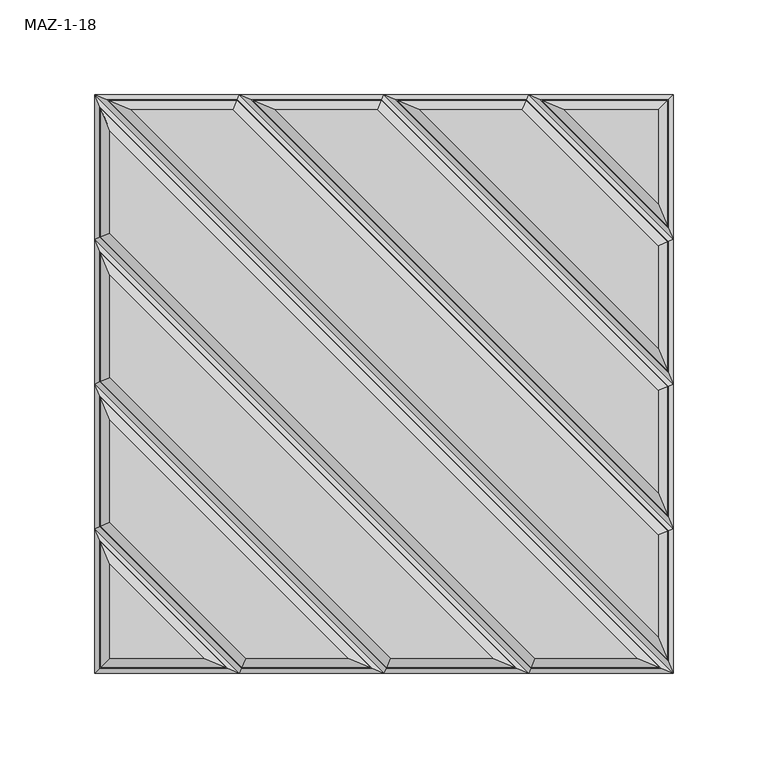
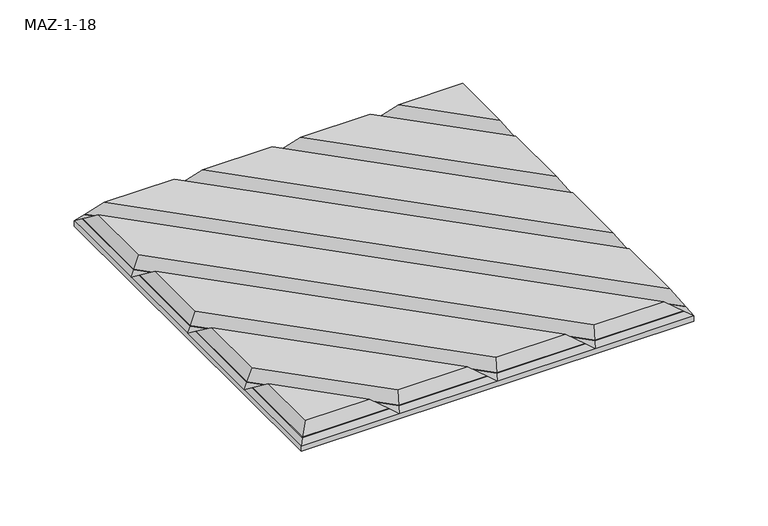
"""IFC4 building model written with IfcOpenShell, lengths in millimetres: proxy geometry, Turf_Wall Tile_Maze : MAZ-1-18."""

from ifc_helpers import new_model, si_unit, origin, place, context, project, spatial, faceted_brep, source, transform, mapped, element, save


def maz_1_18_0f88ea6f(model_context):
    return source(origin(), model_context, "Body", "Brep", [
        faceted_brep([(-152.4, 152.4, 6.35), (152.4, 152.4, 6.35), (152.4, -152.4, 6.35), (-152.4, -152.4, 6.35), (152.4, -152.4, 10.85), (152.4, 152.4, 10.85), (152.4, 76.2, 10.85), (152.4, 0.0, 10.85), (152.4, -76.2, 10.85), (-152.4, -152.4, 10.85), (76.2, -152.4, 10.85), (0.0, -152.4, 10.85), (-76.2, -152.4, 10.85), (-152.4, 152.4, 10.85), (149.8019238, -146.1276892, 15.35), (-146.1276892, 149.8019238, 15.35), (-149.8019238, 146.1276892, 15.35), (146.1276892, -149.8019238, 15.35), (-149.8019238, -6.2723108, 15.35), (-6.2723108, -149.8019238, 15.35), (-152.4, 0.0, 10.85), (1.0761584, -149.8019238, 15.35), (-149.8019238, 1.0761584, 15.35), (-152.4, -76.2, 10.85), (-75.1238416, -149.8019238, 15.35), (-149.8019238, -75.1238416, 15.35), (-149.8019238, -82.4723108, 15.35), (-82.4723108, -149.8019238, 15.35), (-149.8019238, -149.8019238, 15.35), (-152.4, 76.2, 10.85), (77.2761584, -149.8019238, 15.35), (-149.8019238, 77.2761584, 15.35), (-149.8019238, 69.9276892, 15.35), (69.9276892, -149.8019238, 15.35), (-149.8019238, 139.4297872, 15.35), (82.4723108, 149.8019238, 15.35), (149.8019238, 82.4723108, 15.35), (149.8019238, 149.8019238, 15.35), (76.2, 152.4, 10.85), (75.1238416, 149.8019238, 15.35), (149.8019238, 75.1238416, 15.35), (6.2723108, 149.8019238, 15.35), (149.8019238, 6.2723108, 15.35), (0.0, 152.4, 10.85), (-1.0761584, 149.8019238, 15.35), (149.8019238, -1.0761584, 15.35), (-69.9276892, 149.8019238, 15.35), (149.8019238, -69.9276892, 15.35), (149.8019238, -77.2761584, 15.35), (-77.2761584, 149.8019238, 15.35), (-76.2, 152.4, 10.85), (-152.4, 139.4297872, 10.85)], [[[0, 1, 2, 3]], [[4, 2, 1, 5, 6, 7, 8]], [[9, 3, 2, 4, 10, 11, 12]], [[13, 4, 14, 15]], [[16, 17, 4, 13]], [[18, 19, 11, 20]], [[20, 11, 21, 22]], [[23, 12, 24, 25]], [[26, 27, 12, 23]], [[25, 24, 19, 18]], [[27, 26, 28]], [[29, 10, 30, 31]], [[32, 33, 10, 29]], [[16, 34, 31, 30, 17]], [[33, 32, 22, 21]], [[35, 36, 37]], [[38, 6, 36, 35]], [[39, 40, 6, 38]], [[41, 42, 40, 39]], [[43, 7, 42, 41]], [[44, 45, 7, 43]], [[46, 47, 45, 44]], [[15, 14, 48, 49]], [[50, 8, 47, 46]], [[49, 48, 8, 50]], [[23, 25, 18, 20]], [[13, 0, 3, 9, 23, 20, 29, 51]], [[26, 23, 9, 28]], [[16, 13, 51, 29, 31, 34]], [[32, 29, 20, 22]], [[28, 9, 12, 27]], [[24, 12, 11, 19]], [[4, 17, 30, 10]], [[21, 11, 10, 33]], [[42, 7, 6, 40]], [[8, 48, 14, 4]], [[5, 37, 36, 6]], [[47, 8, 7, 45]], [[46, 44, 43, 50]], [[5, 1, 0, 13, 50, 43, 38]], [[39, 38, 43, 41]], [[35, 37, 5, 38]], [[13, 15, 49, 50]]]),
        faceted_brep([(-95.0169325, -144.6057714, 24.35), (-144.6057714, -95.0169325, 24.35), (-144.6057714, -144.6057714, 24.35), (-149.8019238, -82.4723108, 15.35), (-82.4723108, -149.8019238, 15.35), (-149.8019238, -149.8019238, 15.35)], [[[0, 1, 2]], [[3, 4, 5]], [[1, 0, 4, 3]], [[5, 2, 1, 3]], [[2, 5, 4, 0]]]),
        faceted_brep([(-18.8169325, -144.6057714, 24.35), (-6.2723108, -149.8019238, 15.35), (-149.8019238, -6.2723108, 15.35), (-144.6057714, -18.8169325, 24.35), (-144.6057714, -72.9715248, 24.35), (-72.9715248, -144.6057714, 24.35), (-75.1238416, -149.8019238, 15.35), (-149.8019238, -75.1238416, 15.35)], [[[0, 1, 2, 3]], [[4, 5, 0, 3]], [[6, 7, 2, 1]], [[4, 7, 6, 5]], [[3, 2, 7, 4]], [[1, 0, 5, 6]]]),
        faceted_brep([(-149.8019238, 1.0761584, 15.35), (1.0761584, -149.8019238, 15.35), (3.2284752, -144.6057714, 24.35), (-144.6057714, 3.2284752, 24.35), (57.3830675, -144.6057714, 24.35), (-144.6057714, 57.3830675, 24.35), (-149.8019238, 69.9276892, 15.35), (69.9276892, -149.8019238, 15.35)], [[[0, 1, 2, 3]], [[4, 5, 3, 2]], [[6, 7, 1, 0]], [[5, 4, 7, 6]], [[0, 3, 5, 6]], [[2, 1, 7, 4]]]),
        faceted_brep([(-149.8019238, 146.1276892, 15.35), (-147.027562, 139.4297872, 20.1553356), (-144.6057714, 133.5830675, 24.35), (133.5830675, -144.6057714, 24.35), (146.1276892, -149.8019238, 15.35), (-144.6057714, 79.4284752, 24.35), (79.4284752, -144.6057714, 24.35), (77.2761584, -149.8019238, 15.35), (-149.8019238, 77.2761584, 15.35), (-149.8019238, 139.4297872, 15.35)], [[[0, 1, 2, 3, 4]], [[5, 6, 3, 2]], [[0, 4, 7, 8, 9]], [[5, 8, 7, 6]], [[0, 9, 8, 5, 2, 1]], [[4, 3, 6, 7]]]),
        faceted_brep([(72.9715248, 144.6057714, 24.35), (144.6057714, 72.9715248, 24.35), (149.8019238, 75.1238416, 15.35), (75.1238416, 149.8019238, 15.35), (18.8169325, 144.6057714, 24.35), (144.6057714, 18.8169325, 24.35), (149.8019238, 6.2723108, 15.35), (6.2723108, 149.8019238, 15.35)], [[[0, 1, 2, 3]], [[4, 5, 1, 0]], [[3, 2, 6, 7]], [[7, 6, 5, 4]], [[2, 1, 5, 6]], [[0, 3, 7, 4]]]),
        faceted_brep([(-3.2284752, 144.6057714, 24.35), (144.6057714, -3.2284752, 24.35), (149.8019238, -1.0761584, 15.35), (-1.0761584, 149.8019238, 15.35), (-57.3830675, 144.6057714, 24.35), (144.6057714, -57.3830675, 24.35), (149.8019238, -69.9276892, 15.35), (-69.9276892, 149.8019238, 15.35)], [[[0, 1, 2, 3]], [[4, 5, 1, 0]], [[3, 2, 6, 7]], [[7, 6, 5, 4]], [[2, 1, 5, 6]], [[0, 3, 7, 4]]]),
        faceted_brep([(-146.1276892, 149.8019238, 15.35), (149.8019238, -146.1276892, 15.35), (144.6057714, -133.5830675, 24.35), (-133.5830675, 144.6057714, 24.35), (-79.4284752, 144.6057714, 24.35), (144.6057714, -79.4284752, 24.35), (149.8019238, -77.2761584, 15.35), (-77.2761584, 149.8019238, 15.35)], [[[0, 1, 2, 3]], [[4, 5, 6, 7]], [[3, 2, 5, 4]], [[7, 6, 1, 0]], [[2, 1, 6, 5]], [[3, 4, 7, 0]]]),
        faceted_brep([(95.0169325, 144.6057714, 24.35), (144.6057714, 95.0169325, 24.35), (144.6057714, 144.6057714, 24.35), (149.8019238, 149.8019238, 15.35), (149.8019238, 82.4723108, 15.35), (82.4723108, 149.8019238, 15.35)], [[[0, 1, 2]], [[3, 4, 5]], [[5, 4, 1, 0]], [[3, 2, 1, 4]], [[3, 5, 0, 2]]]),
    ])


if __name__ == "__main__":
    model = new_model("IFC4")
    model_context = context("Model", 3, world=origin())
    ifc_project = project(units=[si_unit("LENGTHUNIT", "METRE", prefix="MILLI")], contexts=[model_context])
    site = spatial("IfcSite", under=ifc_project)
    building = spatial("IfcBuilding", under=site)
    placement = place(None, origin())
    maz_1_18_shape = maz_1_18_0f88ea6f(model_context)
    element("IfcBuildingElementProxy", 1, Name="Turf_Wall Tile_Maze : MAZ-1-18", ObjectType="Turf_Wall Tile_Maze : MAZ-1-18", at=placement, inside=building, context=model_context, shape_type="MappedRepresentation", body=[
        mapped(maz_1_18_shape, transform((0.0, 0.0, 0.0), x_axis=(1.0, 0.0, 0.0), y_axis=(0.0, 1.0, 0.0), z_axis=(0.0, 0.0, 1.0))),
    ])
    save(model, "model.ifc")
